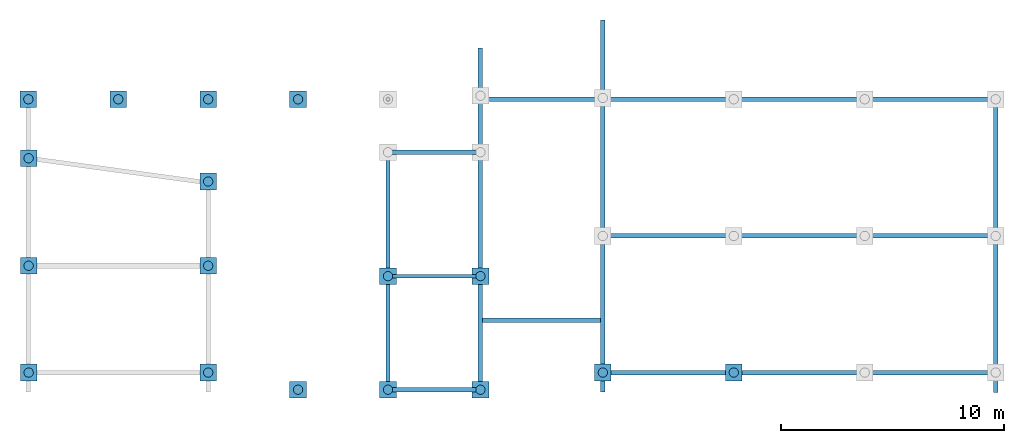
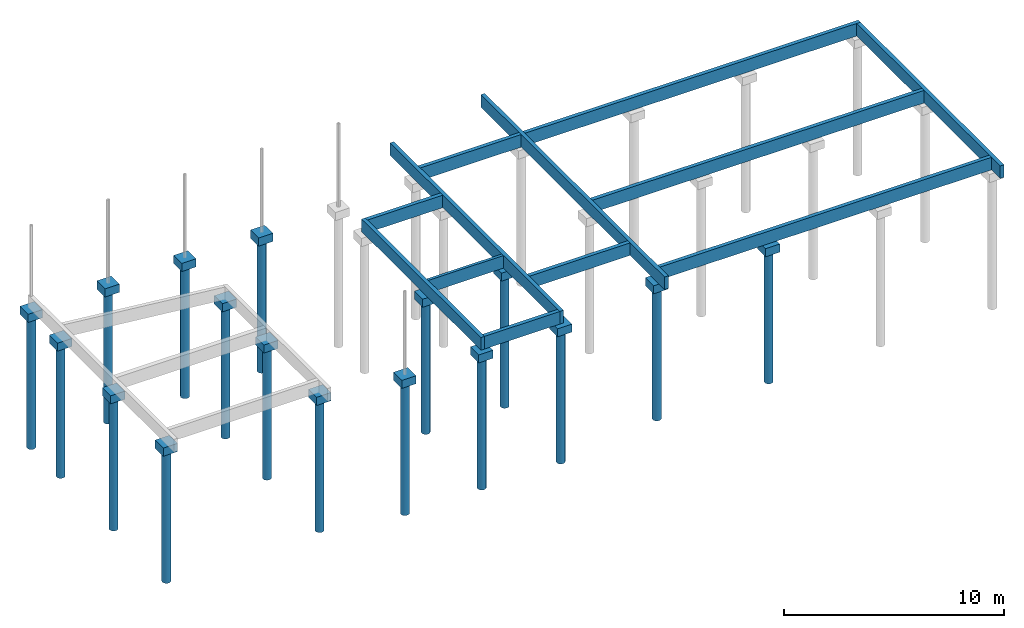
# One storey, part 2 of 3: 34 slabs, 11 beams.
"""IFC2X3 building model written with IfcOpenShell, lengths in metres."""

from ifc_helpers import new_model, entity, si_unit, converted_unit, derived_unit, direction, frame, frame_2d, origin, origin_2d_with_axis, place, context, subcontext, project, spatial, rectangle, circle, extrude, faceted_brep, source, transform, mapped, material, element, save


model = new_model("IFC2X3")

# Units and contexts
model_context = context("Model", 3, precision=1e-05, world=origin(), true_north=direction((6.12303176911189e-17, 1.0)))
body_context = subcontext(model_context, "Body", "Model", "MODEL_VIEW")
ifc_project = project(units=[si_unit("LENGTHUNIT", "METRE"), si_unit("AREAUNIT", "SQUARE_METRE"), si_unit("VOLUMEUNIT", "CUBIC_METRE"), converted_unit("PLANEANGLEUNIT", "DEGREE", entity("IfcRatioMeasure", 0.0174532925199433), si_unit("PLANEANGLEUNIT", "RADIAN"), dimensions=[0, 0, 0, 0, 0, 0, 0]), si_unit("MASSUNIT", "GRAM", prefix="KILO"), si_unit("TIMEUNIT", "SECOND"), si_unit("FREQUENCYUNIT", "HERTZ"), si_unit("THERMODYNAMICTEMPERATUREUNIT", "DEGREE_CELSIUS"), derived_unit("THERMALTRANSMITTANCEUNIT", [(si_unit("MASSUNIT", "GRAM", prefix="KILO"), 1), (si_unit("THERMODYNAMICTEMPERATUREUNIT", "KELVIN"), -1), (si_unit("TIMEUNIT", "SECOND"), -3)]), derived_unit("VOLUMETRICFLOWRATEUNIT", [(si_unit("LENGTHUNIT", "METRE"), 3), (si_unit("TIMEUNIT", "SECOND"), -1)]), si_unit("ELECTRICCURRENTUNIT", "AMPERE"), si_unit("ELECTRICVOLTAGEUNIT", "VOLT"), si_unit("POWERUNIT", "WATT"), si_unit("FORCEUNIT", "NEWTON", prefix="KILO"), si_unit("ILLUMINANCEUNIT", "LUX"), si_unit("LUMINOUSFLUXUNIT", "LUMEN"), si_unit("LUMINOUSINTENSITYUNIT", "CANDELA"), derived_unit("USERDEFINED", [(si_unit("MASSUNIT", "GRAM", prefix="KILO"), -1), (si_unit("LENGTHUNIT", "METRE"), -2), (si_unit("TIMEUNIT", "SECOND"), 3), (si_unit("LUMINOUSFLUXUNIT", "LUMEN"), 1)]), derived_unit("LINEARVELOCITYUNIT", [(si_unit("LENGTHUNIT", "METRE"), 1), (si_unit("TIMEUNIT", "SECOND"), -1)]), si_unit("PRESSUREUNIT", "PASCAL"), derived_unit("USERDEFINED", [(si_unit("LENGTHUNIT", "METRE"), -2), (si_unit("MASSUNIT", "GRAM", prefix="KILO"), 1), (si_unit("TIMEUNIT", "SECOND"), -2)])], contexts=[model_context])

# Site, building, storey
site_placement = place(None, origin())
site = spatial("IfcSite", under=ifc_project, at=site_placement, Name="Default", CompositionType="ELEMENT")
building_placement = place(site_placement, origin())
building = spatial("IfcBuilding", under=site, at=building_placement, CompositionType="ELEMENT")
storey_placement = place(building_placement, frame((0.0, 0.0, -0.77)))
storey = spatial("IfcBuildingStorey", under=building, at=storey_placement, Name="Fondation", CompositionType="ELEMENT", Elevation=-0.77)

# Beams
ifc_material_1 = material(Name="Béton - Béton coulé sur place")
shared_shape = source(origin(), body_context, "Body", "SweptSolid", [
    extrude(rectangle(XDim=5.30000043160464, YDim=0.2, at=frame_2d((0.0, -1.08246744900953e-15), x_axis=(1.0, 0.0))), frame((2.65000021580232, 0.100000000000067, 0.0)), (0.0, 0.0, 1.0), 0.7),
    extrude(rectangle(XDim=17.6500015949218, YDim=0.2, at=frame_2d((1.72500010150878, -0.0200000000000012), x_axis=(1.0, 0.0))), frame((16.0500013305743, 0.0800000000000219, 0.0), z_axis=(0.0, 0.0, 1.0), x_axis=(-1.0, 0.0, 0.0)), (0.0, 0.0, 1.0), 0.7),
])
beam_1_placement = place(storey_placement, frame((-1.77242964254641, 9.42524968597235, 0.0)))
element("IfcBeam", 1, at=beam_1_placement, inside=storey, material=ifc_material_1, Name="Poutre rectangulaire - Béton:Longrine 0.20 x 0.7", ObjectType="Longrine 0.20 x 0.7", context=body_context, shape_type="MappedRepresentation", body=[
    mapped(shared_shape, transform((0.0, 0.0, 0.0), scale=1.0)),
])
beam_2_placement = place(storey_placement, frame((-5.92551543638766, 7.14524988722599, 0.0)))
element("IfcBeam", 2, at=beam_2_placement, inside=storey, material=ifc_material_1, Name="Poutre rectangulaire - Béton:Longrine 0.20 x 0.7", ObjectType="Poutre rectangulaire - Béton:Longrine 0.20 x 0.7", context=body_context, shape_type="SweptSolid", body=[
    extrude(rectangle(XDim=0.7, YDim=0.2, at=frame_2d((0.0, 1.29896093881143e-14), x_axis=(1.0, 0.0))), frame((-0.0126571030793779, 0.0, 0.349999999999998), z_axis=(1.0, 0.0, 0.0), x_axis=(0.0, 0.0, -1.0)), (0.0, 0.0, 1.0), 3.96574289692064),
])
beam_3_placement = place(storey_placement, frame((-6.12551543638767, -3.62475028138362, 0.0), z_axis=(0.0, 0.0, 1.0), x_axis=(0.0, 1.0, 0.0)))
element("IfcBeam", 3, at=beam_3_placement, inside=storey, material=ifc_material_1, Name="Poutre rectangulaire - Béton:Longrine 0.20 x 0.7", ObjectType="Poutre rectangulaire - Béton:Longrine 0.20 x 0.7", context=body_context, shape_type="Brep", body=[
    faceted_brep([(0.0, -0.2, 0.7), (0.0, -0.2, 0.0), (0.200000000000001, -0.200000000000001, 0.0), (5.12999973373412, -0.200000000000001, 0.0), (5.27999973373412, -0.2, 0.0), (10.6700001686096, -0.200000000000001, 0.0), (10.6700001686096, -0.200000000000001, 0.7), (5.27999973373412, -0.2, 0.7), (5.12999973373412, -0.200000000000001, 0.7), (0.200000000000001, -0.200000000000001, 0.7), (0.0, 0.0, 0.0), (10.8699999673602, 0.0, 0.0), (10.8699999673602, -0.187342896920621, 0.0), (10.6700001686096, -0.18734289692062, 0.0), (10.8699999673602, 0.0, 0.7), (0.0, 0.0, 0.7), (10.6699999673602, 0.0, 0.7), (10.6700001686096, -0.18734289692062, 0.7), (10.8699999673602, -0.187342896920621, 0.7)], [[[0, 1, 2, 3, 4, 5, 6, 7, 8, 9]], [[10, 11, 12, 13, 5, 4, 3, 2, 1]], [[14, 11, 10, 15, 16]], [[14, 16, 15, 0, 9, 8, 7, 6, 17, 18]], [[13, 17, 6, 5]], [[11, 14, 18, 12]], [[1, 0, 15, 10]], [[17, 13, 12, 18]]]),
])
beam_4_placement = place(storey_placement, frame((-1.87242964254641, 11.825249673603, 0.0), z_axis=(0.0, 0.0, 1.0), x_axis=(0.0, -1.0, 0.0)))
element("IfcBeam", 4, at=beam_4_placement, inside=storey, material=ifc_material_1, Name="Poutre rectangulaire - Béton:Longrine 0.20 x 0.7", ObjectType="Poutre rectangulaire - Béton:Longrine 0.20 x 0.7", context=body_context, shape_type="SweptSolid", body=[
    extrude(rectangle(XDim=0.7, YDim=0.2, at=origin_2d_with_axis()), frame((-0.012700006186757, 0.0, 0.349999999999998), z_axis=(1.0, 0.0, 0.0), x_axis=(0.0, 0.0, -1.0)), (0.0, 0.0, 1.0), 15.4626999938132),
])
beam_5_placement = place(storey_placement, frame((-1.8724334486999, -3.52475028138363, 0.0), z_axis=(0.0, 0.0, 1.0), x_axis=(-1.0, 0.0, 0.0)))
element("IfcBeam", 5, at=beam_5_placement, inside=storey, material=ifc_material_1, Name="Poutre rectangulaire - Béton:Longrine 0.20 x 0.7", ObjectType="Poutre rectangulaire - Béton:Longrine 0.20 x 0.7", context=body_context, shape_type="SweptSolid", body=[
    extrude(rectangle(XDim=0.7, YDim=0.2, at=frame_2d((0.0, 1.24553145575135e-14), x_axis=(1.0, 0.0))), frame((0.0999961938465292, 0.0, 0.349999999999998), z_axis=(1.0, 0.0, 0.0), x_axis=(0.0, 0.0, -1.0)), (0.0, 0.0, 1.0), 3.95308579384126),
])
beam_6_placement = place(storey_placement, frame((3.62757078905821, -0.404750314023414, 0.0), z_axis=(0.0, 0.0, 1.0), x_axis=(-1.0, 0.0, 0.0)))
element("IfcBeam", 6, at=beam_6_placement, inside=storey, material=ifc_material_1, Name="Poutre rectangulaire - Béton:Longrine 0.20 x 0.7", ObjectType="Poutre rectangulaire - Béton:Longrine 0.20 x 0.7", context=body_context, shape_type="SweptSolid", body=[
    extrude(rectangle(XDim=0.7, YDim=0.2, at=frame_2d((0.0, 1.71945790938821e-14), x_axis=(1.0, 0.0))), frame((0.0999999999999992, 0.0, 0.349999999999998), z_axis=(1.0, 0.0, 0.0), x_axis=(0.0, 0.0, -1.0)), (0.0, 0.0, 1.0), 5.30000043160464),
])
beam_7_placement = place(storey_placement, frame((3.6275707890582, -3.6247503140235, 0.0), z_axis=(0.0, 0.0, 1.0), x_axis=(0.0, 1.0, 0.0)))
element("IfcBeam", 7, at=beam_7_placement, inside=storey, material=ifc_material_1, Name="Poutre rectangulaire - Béton:Longrine 0.20 x 0.7", ObjectType="Poutre rectangulaire - Béton:Longrine 0.20 x 0.7", context=body_context, shape_type="SweptSolid", body=[
    extrude(rectangle(XDim=0.7, YDim=0.2, at=origin_2d_with_axis()), frame((-0.0127000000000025, 0.0, 0.349999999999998), z_axis=(1.0, 0.0, 0.0), x_axis=(0.0, 0.0, -1.0)), (0.0, 0.0, 1.0), 16.7254),
])
beam_8_placement = place(storey_placement, frame((21.277572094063, 9.52524967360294, 0.0), z_axis=(0.0, 0.0, 1.0), x_axis=(0.0, -1.0, 0.0)))
element("IfcBeam", 8, at=beam_8_placement, inside=storey, material=ifc_material_1, Name="Poutre rectangulaire - Béton:Longrine 0.20 x 0.7", ObjectType="Poutre rectangulaire - Béton:Longrine 0.20 x 0.7", context=body_context, shape_type="SweptSolid", body=[
    extrude(rectangle(XDim=0.7, YDim=0.199999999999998, at=origin_2d_with_axis()), frame((0.099999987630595, 0.0, 0.349999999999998), z_axis=(1.0, 0.0, 0.0), x_axis=(0.0, 0.0, -1.0)), (0.0, 0.0, 1.0), 13.0727000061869),
])
beam_9_placement = place(storey_placement, frame((21.277572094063, -2.75475018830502, 0.0), z_axis=(0.0, 0.0, 1.0), x_axis=(-1.0, 0.0, 0.0)))
element("IfcBeam", 9, at=beam_9_placement, inside=storey, material=ifc_material_1, Name="Poutre rectangulaire - Béton:Longrine 0.20 x 0.7", ObjectType="Poutre rectangulaire - Béton:Longrine 0.20 x 0.7", context=body_context, shape_type="SweptSolid", body=[
    extrude(rectangle(XDim=0.7, YDim=0.2, at=frame_2d((0.0, 5.63091240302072e-14), x_axis=(1.0, 0.0))), frame((0.0999999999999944, 0.0, 0.349999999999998), z_axis=(1.0, 0.0, 0.0), x_axis=(0.0, 0.0, -1.0)), (0.0, 0.0, 1.0), 17.4500013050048),
])
beam_10_placement = place(storey_placement, frame((3.62757078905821, 3.3852497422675, 0.0)))
element("IfcBeam", 10, at=beam_10_placement, inside=storey, material=ifc_material_1, Name="Poutre rectangulaire - Béton:Longrine 0.20 x 0.7", ObjectType="Poutre rectangulaire - Béton:Longrine 0.20 x 0.7", context=body_context, shape_type="SweptSolid", body=[
    extrude(rectangle(XDim=0.7, YDim=0.199999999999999, at=frame_2d((0.0, 5.63091240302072e-14), x_axis=(1.0, 0.0))), frame((0.0999999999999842, 0.0, 0.349999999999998), z_axis=(1.0, 0.0, 0.0), x_axis=(0.0, 0.0, -1.0)), (0.0, 0.0, 1.0), 17.4500013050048),
])
beam_11_placement = place(storey_placement, frame((-6.02551543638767, 1.5802494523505, 0.0)))
element("IfcBeam", 11, at=beam_11_placement, inside=storey, material=ifc_material_1, Name="Poutre rectangulaire - Béton:Longrine 0.15 x 0.70", ObjectType="Poutre rectangulaire - Béton:Longrine 0.15 x 0.70", context=body_context, shape_type="SweptSolid", body=[
    extrude(rectangle(XDim=0.7, YDim=0.15, at=origin_2d_with_axis()), frame((0.100000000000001, 0.0, 0.349999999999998), z_axis=(1.0, 0.0, 0.0), x_axis=(0.0, 0.0, -1.0)), (0.0, 0.0, 1.0), 3.95308579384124),
])

# Slabs
slab_1_placement = place(storey_placement, frame((-22.5605154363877, 9.15024996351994, -0.45)))
element("IfcSlab", 12, at=slab_1_placement, inside=storey, material=ifc_material_1, Name="Base rectangulaire:Semelle 0.75 x 0.75 x 0.45", ObjectType="Base rectangulaire:Semelle 0.75 x 0.75 x 0.45", PredefinedType="FLOOR", context=body_context, shape_type="SweptSolid", body=[
    extrude(rectangle(XDim=0.749999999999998, YDim=0.75, at=frame_2d((2.16493489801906e-15, -5.27355936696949e-16), x_axis=(1.0, 0.0))), frame((0.375000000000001, 0.374999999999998, 0.0), z_axis=(0.0, 0.0, 1.0), x_axis=(-1.0, 0.0, 0.0)), (0.0, 0.0, 1.0), 0.45),
    extrude(rectangle(XDim=0.749999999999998, YDim=0.75, at=frame_2d((2.16493489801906e-15, -5.27355936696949e-16), x_axis=(1.0, 0.0))), frame((0.375000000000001, 0.374999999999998, 0.0), z_axis=(0.0, 0.0, 1.0), x_axis=(-1.0, 0.0, 0.0)), (0.0, 0.0, 1.0), 0.45),
])
ifc_material_2 = material(Name="Maçonnerie - Béton coulé sur place")
slab_2_placement = place(storey_placement, frame((-22.3971029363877, 9.31519359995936, -7.73)))
element("IfcSlab", 13, at=slab_2_placement, inside=storey, material=ifc_material_2, Name="Pieu-Conduite en acier:Pieu 420mm", ObjectType="Pieu-Conduite en acier:Pieu 420mm", PredefinedType="FLOOR", context=body_context, shape_type="SweptSolid", body=[
    extrude(circle(Radius=0.21, at=origin_2d_with_axis()), frame((0.211587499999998, 0.210056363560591, 0.0)), (0.0, 0.0, 1.0), 7.28),
])
slab_3_placement = place(storey_placement, frame((-18.5205154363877, 9.15024996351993, -0.45)))
element("IfcSlab", 14, at=slab_3_placement, inside=storey, material=ifc_material_1, Name="Base rectangulaire:Semelle 0.75 x 0.75 x 0.45", ObjectType="Base rectangulaire:Semelle 0.75 x 0.75 x 0.45", PredefinedType="FLOOR", context=body_context, shape_type="SweptSolid", body=[
    extrude(rectangle(XDim=0.750000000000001, YDim=0.75, at=frame_2d((-1.08246744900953e-15, 5.27355936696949e-16), x_axis=(1.0, 0.0))), frame((0.375000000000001, 0.374999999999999, 0.0), z_axis=(0.0, 0.0, 1.0), x_axis=(-1.0, 0.0, 0.0)), (0.0, 0.0, 1.0), 0.45),
    extrude(rectangle(XDim=0.750000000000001, YDim=0.75, at=frame_2d((-1.08246744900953e-15, 5.27355936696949e-16), x_axis=(1.0, 0.0))), frame((0.375000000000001, 0.374999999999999, 0.0), z_axis=(0.0, 0.0, 1.0), x_axis=(-1.0, 0.0, 0.0)), (0.0, 0.0, 1.0), 0.45),
])
slab_4_placement = place(storey_placement, frame((-18.3571029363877, 9.31519359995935, -7.73)))
element("IfcSlab", 15, at=slab_4_placement, inside=storey, material=ifc_material_2, Name="Pieu-Conduite en acier:Pieu 420mm", ObjectType="Pieu-Conduite en acier:Pieu 420mm", PredefinedType="FLOOR", context=body_context, shape_type="SweptSolid", body=[
    extrude(circle(Radius=0.21, at=origin_2d_with_axis()), frame((0.211587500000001, 0.210056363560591, 0.0)), (0.0, 0.0, 1.0), 7.28),
])
slab_5_placement = place(storey_placement, frame((-14.4805154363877, 9.15024996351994, -0.45)))
element("IfcSlab", 16, at=slab_5_placement, inside=storey, material=ifc_material_1, Name="Base rectangulaire:Semelle 0.75 x 0.75 x 0.45", ObjectType="Base rectangulaire:Semelle 0.75 x 0.75 x 0.45", PredefinedType="FLOOR", context=body_context, shape_type="SweptSolid", body=[
    extrude(rectangle(XDim=0.750000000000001, YDim=0.75, at=frame_2d((-1.08246744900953e-15, -5.27355936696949e-16), x_axis=(1.0, 0.0))), frame((0.375000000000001, 0.374999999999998, 0.0), z_axis=(0.0, 0.0, 1.0), x_axis=(-1.0, 0.0, 0.0)), (0.0, 0.0, 1.0), 0.45),
    extrude(rectangle(XDim=0.750000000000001, YDim=0.75, at=frame_2d((-1.08246744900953e-15, -5.27355936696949e-16), x_axis=(1.0, 0.0))), frame((0.375000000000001, 0.374999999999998, 0.0), z_axis=(0.0, 0.0, 1.0), x_axis=(-1.0, 0.0, 0.0)), (0.0, 0.0, 1.0), 0.45),
])
slab_6_placement = place(storey_placement, frame((-14.3171029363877, 9.31519359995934, -7.73)))
element("IfcSlab", 17, at=slab_6_placement, inside=storey, material=ifc_material_2, Name="Pieu-Conduite en acier:Pieu 420mm", ObjectType="Pieu-Conduite en acier:Pieu 420mm", PredefinedType="FLOOR", context=body_context, shape_type="SweptSolid", body=[
    extrude(circle(Radius=0.21, at=origin_2d_with_axis()), frame((0.211587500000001, 0.210056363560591, 0.0)), (0.0, 0.0, 1.0), 7.28),
])
slab_7_placement = place(storey_placement, frame((-10.4405154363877, 9.15024996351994, -0.45)))
element("IfcSlab", 18, at=slab_7_placement, inside=storey, material=ifc_material_1, Name="Base rectangulaire:Semelle 0.75 x 0.75 x 0.45", ObjectType="Base rectangulaire:Semelle 0.75 x 0.75 x 0.45", PredefinedType="FLOOR", context=body_context, shape_type="SweptSolid", body=[
    extrude(rectangle(XDim=0.75, YDim=0.75, at=frame_2d((-5.27355936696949e-16, -5.27355936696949e-16), x_axis=(1.0, 0.0))), frame((0.375000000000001, 0.374999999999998, 0.0), z_axis=(0.0, 0.0, 1.0), x_axis=(-1.0, 0.0, 0.0)), (0.0, 0.0, 1.0), 0.45),
    extrude(rectangle(XDim=0.75, YDim=0.75, at=frame_2d((-5.27355936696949e-16, -5.27355936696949e-16), x_axis=(1.0, 0.0))), frame((0.375000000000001, 0.374999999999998, 0.0), z_axis=(0.0, 0.0, 1.0), x_axis=(-1.0, 0.0, 0.0)), (0.0, 0.0, 1.0), 0.45),
])
slab_8_placement = place(storey_placement, frame((-10.2771029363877, 9.31519359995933, -7.73)))
element("IfcSlab", 19, at=slab_8_placement, inside=storey, material=ifc_material_2, Name="Pieu-Conduite en acier:Pieu 420mm", ObjectType="Pieu-Conduite en acier:Pieu 420mm", PredefinedType="FLOOR", context=body_context, shape_type="SweptSolid", body=[
    extrude(circle(Radius=0.21, at=origin_2d_with_axis()), frame((0.211587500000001, 0.210056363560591, 0.0)), (0.0, 0.0, 1.0), 7.28),
])
slab_9_placement = place(storey_placement, frame((-22.5474270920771, 6.50122733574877, -0.45)))
element("IfcSlab", 20, at=slab_9_placement, inside=storey, material=ifc_material_1, Name="Base rectangulaire:Semelle 0.75 x 0.75 x 0.45", ObjectType="Base rectangulaire:Semelle 0.75 x 0.75 x 0.45", PredefinedType="FLOOR", context=body_context, shape_type="SweptSolid", body=[
    extrude(rectangle(XDim=0.749999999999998, YDim=0.75, at=frame_2d((2.16493489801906e-15, 5.27355936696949e-16), x_axis=(1.0, 0.0))), frame((0.375000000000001, 0.375, 0.0), z_axis=(0.0, 0.0, 1.0), x_axis=(-1.0, 0.0, 0.0)), (0.0, 0.0, 1.0), 0.45),
    extrude(rectangle(XDim=0.749999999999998, YDim=0.75, at=frame_2d((2.16493489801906e-15, 5.27355936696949e-16), x_axis=(1.0, 0.0))), frame((0.375000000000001, 0.375, 0.0), z_axis=(0.0, 0.0, 1.0), x_axis=(-1.0, 0.0, 0.0)), (0.0, 0.0, 1.0), 0.45),
])
slab_10_placement = place(storey_placement, frame((-22.3840145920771, 6.66617097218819, -7.73)))
element("IfcSlab", 21, at=slab_10_placement, inside=storey, material=ifc_material_2, Name="Pieu-Conduite en acier:Pieu 420mm", ObjectType="Pieu-Conduite en acier:Pieu 420mm", PredefinedType="FLOOR", context=body_context, shape_type="SweptSolid", body=[
    extrude(circle(Radius=0.21, at=origin_2d_with_axis()), frame((0.211587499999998, 0.210056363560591, 0.0)), (0.0, 0.0, 1.0), 7.28),
])
slab_11_placement = place(storey_placement, frame((-22.5474270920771, 1.67042227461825, -0.45)))
element("IfcSlab", 22, at=slab_11_placement, inside=storey, material=ifc_material_1, Name="Base rectangulaire:Semelle 0.75 x 0.75 x 0.45", ObjectType="Base rectangulaire:Semelle 0.75 x 0.75 x 0.45", PredefinedType="FLOOR", context=body_context, shape_type="SweptSolid", body=[
    extrude(rectangle(XDim=0.749999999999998, YDim=0.75, at=frame_2d((2.16493489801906e-15, 1.38777878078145e-16), x_axis=(1.0, 0.0))), frame((0.375000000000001, 0.375, 0.0), z_axis=(0.0, 0.0, 1.0), x_axis=(-1.0, 0.0, 0.0)), (0.0, 0.0, 1.0), 0.45),
    extrude(rectangle(XDim=0.749999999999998, YDim=0.75, at=frame_2d((2.16493489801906e-15, 1.38777878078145e-16), x_axis=(1.0, 0.0))), frame((0.375000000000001, 0.375, 0.0), z_axis=(0.0, 0.0, 1.0), x_axis=(-1.0, 0.0, 0.0)), (0.0, 0.0, 1.0), 0.45),
])
slab_12_placement = place(storey_placement, frame((-22.3840145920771, 1.83536591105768, -7.73)))
element("IfcSlab", 23, at=slab_12_placement, inside=storey, material=ifc_material_2, Name="Pieu-Conduite en acier:Pieu 420mm", ObjectType="Pieu-Conduite en acier:Pieu 420mm", PredefinedType="FLOOR", context=body_context, shape_type="SweptSolid", body=[
    extrude(circle(Radius=0.21, at=frame_2d((0.0, -2.70716782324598e-16), x_axis=(1.0, 0.0))), frame((0.211587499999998, 0.210056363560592, 0.0)), (0.0, 0.0, 1.0), 7.28),
])
slab_13_placement = place(storey_placement, frame((-22.5474270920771, -3.12975031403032, -0.45)))
element("IfcSlab", 24, at=slab_13_placement, inside=storey, material=ifc_material_1, Name="Base rectangulaire:Semelle 0.75 x 0.75 x 0.45", ObjectType="Base rectangulaire:Semelle 0.75 x 0.75 x 0.45", PredefinedType="FLOOR", context=body_context, shape_type="SweptSolid", body=[
    extrude(rectangle(XDim=0.749999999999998, YDim=0.75, at=frame_2d((2.16493489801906e-15, 0.0), x_axis=(1.0, 0.0))), frame((0.375000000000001, 0.375000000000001, 0.0), z_axis=(0.0, 0.0, 1.0), x_axis=(-1.0, 0.0, 0.0)), (0.0, 0.0, 1.0), 0.45),
    extrude(rectangle(XDim=0.749999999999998, YDim=0.75, at=frame_2d((2.16493489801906e-15, 0.0), x_axis=(1.0, 0.0))), frame((0.375000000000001, 0.375000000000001, 0.0), z_axis=(0.0, 0.0, 1.0), x_axis=(-1.0, 0.0, 0.0)), (0.0, 0.0, 1.0), 0.45),
])
slab_14_placement = place(storey_placement, frame((-22.3840145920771, -2.96480667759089, -7.73)))
element("IfcSlab", 25, at=slab_14_placement, inside=storey, material=ifc_material_2, Name="Pieu-Conduite en acier:Pieu 420mm", ObjectType="Pieu-Conduite en acier:Pieu 420mm", PredefinedType="FLOOR", context=body_context, shape_type="SweptSolid", body=[
    extrude(circle(Radius=0.21, at=frame_2d((0.0, -5.41433564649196e-16), x_axis=(1.0, 0.0))), frame((0.211587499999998, 0.210056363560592, 0.0)), (0.0, 0.0, 1.0), 7.28),
])
slab_15_placement = place(storey_placement, frame((-14.4805154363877, -3.12975031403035, -0.45)))
element("IfcSlab", 26, at=slab_15_placement, inside=storey, material=ifc_material_1, Name="Base rectangulaire:Semelle 0.75 x 0.75 x 0.45", ObjectType="Base rectangulaire:Semelle 0.75 x 0.75 x 0.45", PredefinedType="FLOOR", context=body_context, shape_type="SweptSolid", body=[
    extrude(rectangle(XDim=0.750000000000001, YDim=0.75, at=frame_2d((-1.08246744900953e-15, 0.0), x_axis=(1.0, 0.0))), frame((0.375000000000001, 0.375000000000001, 0.0), z_axis=(0.0, 0.0, 1.0), x_axis=(-1.0, 0.0, 0.0)), (0.0, 0.0, 1.0), 0.45),
    extrude(rectangle(XDim=0.750000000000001, YDim=0.75, at=frame_2d((-1.08246744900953e-15, 0.0), x_axis=(1.0, 0.0))), frame((0.375000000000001, 0.375000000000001, 0.0), z_axis=(0.0, 0.0, 1.0), x_axis=(-1.0, 0.0, 0.0)), (0.0, 0.0, 1.0), 0.45),
])
slab_16_placement = place(storey_placement, frame((-14.3171029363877, -2.96480667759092, -7.73)))
element("IfcSlab", 27, at=slab_16_placement, inside=storey, material=ifc_material_2, Name="Pieu-Conduite en acier:Pieu 420mm", ObjectType="Pieu-Conduite en acier:Pieu 420mm", PredefinedType="FLOOR", context=body_context, shape_type="SweptSolid", body=[
    extrude(circle(Radius=0.21, at=frame_2d((0.0, -5.41433564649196e-16), x_axis=(1.0, 0.0))), frame((0.211587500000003, 0.210056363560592, 0.0)), (0.0, 0.0, 1.0), 7.28),
])
slab_17_placement = place(storey_placement, frame((-14.4805154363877, 1.67042227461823, -0.45)))
element("IfcSlab", 28, at=slab_17_placement, inside=storey, material=ifc_material_1, Name="Base rectangulaire:Semelle 0.75 x 0.75 x 0.45", ObjectType="Base rectangulaire:Semelle 0.75 x 0.75 x 0.45", PredefinedType="FLOOR", context=body_context, shape_type="SweptSolid", body=[
    extrude(rectangle(XDim=0.750000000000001, YDim=0.75, at=frame_2d((-1.08246744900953e-15, 1.38777878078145e-16), x_axis=(1.0, 0.0))), frame((0.375000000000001, 0.375, 0.0), z_axis=(0.0, 0.0, 1.0), x_axis=(-1.0, 0.0, 0.0)), (0.0, 0.0, 1.0), 0.45),
    extrude(rectangle(XDim=0.750000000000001, YDim=0.75, at=frame_2d((-1.08246744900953e-15, 1.38777878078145e-16), x_axis=(1.0, 0.0))), frame((0.375000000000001, 0.375, 0.0), z_axis=(0.0, 0.0, 1.0), x_axis=(-1.0, 0.0, 0.0)), (0.0, 0.0, 1.0), 0.45),
])
slab_18_placement = place(storey_placement, frame((-14.3171029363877, 1.83536591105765, -7.73)))
element("IfcSlab", 29, at=slab_18_placement, inside=storey, material=ifc_material_2, Name="Pieu-Conduite en acier:Pieu 420mm", ObjectType="Pieu-Conduite en acier:Pieu 420mm", PredefinedType="FLOOR", context=body_context, shape_type="SweptSolid", body=[
    extrude(circle(Radius=0.21, at=frame_2d((0.0, -2.70716782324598e-16), x_axis=(1.0, 0.0))), frame((0.211587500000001, 0.210056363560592, 0.0)), (0.0, 0.0, 1.0), 7.28),
])
slab_19_placement = place(storey_placement, frame((-14.4805154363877, 5.45445083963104, -0.45)))
element("IfcSlab", 30, at=slab_19_placement, inside=storey, material=ifc_material_1, Name="Base rectangulaire:Semelle 0.75 x 0.75 x 0.45", ObjectType="Base rectangulaire:Semelle 0.75 x 0.75 x 0.45", PredefinedType="FLOOR", context=body_context, shape_type="SweptSolid", body=[
    extrude(rectangle(XDim=0.750000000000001, YDim=0.75, at=frame_2d((1.08246744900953e-15, 5.27355936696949e-16), x_axis=(1.0, 0.0))), frame((0.375000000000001, 0.374999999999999, 0.0), z_axis=(0.0, 0.0, 1.0), x_axis=(-1.0, 0.0, 0.0)), (0.0, 0.0, 1.0), 0.45),
    extrude(rectangle(XDim=0.750000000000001, YDim=0.75, at=frame_2d((1.08246744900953e-15, 5.27355936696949e-16), x_axis=(1.0, 0.0))), frame((0.375000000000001, 0.374999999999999, 0.0), z_axis=(0.0, 0.0, 1.0), x_axis=(-1.0, 0.0, 0.0)), (0.0, 0.0, 1.0), 0.45),
])
slab_20_placement = place(storey_placement, frame((-14.3171029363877, 5.61939447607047, -7.73)))
element("IfcSlab", 31, at=slab_20_placement, inside=storey, material=ifc_material_2, Name="Pieu-Conduite en acier:Pieu 420mm", ObjectType="Pieu-Conduite en acier:Pieu 420mm", PredefinedType="FLOOR", context=body_context, shape_type="SweptSolid", body=[
    extrude(circle(Radius=0.21, at=origin_2d_with_axis()), frame((0.211587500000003, 0.210056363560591, 0.0)), (0.0, 0.0, 1.0), 7.28),
])
slab_21_placement = place(storey_placement, frame((-10.4405154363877, -3.89975028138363, -0.45)))
element("IfcSlab", 32, at=slab_21_placement, inside=storey, material=ifc_material_1, Name="Base rectangulaire:Semelle 0.75 x 0.75 x 0.45", ObjectType="Base rectangulaire:Semelle 0.75 x 0.75 x 0.45", PredefinedType="FLOOR", context=body_context, shape_type="SweptSolid", body=[
    extrude(rectangle(XDim=0.75, YDim=0.75, at=frame_2d((-5.27355936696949e-16, 5.27355936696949e-16), x_axis=(1.0, 0.0))), frame((0.374999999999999, 0.375000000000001, 0.0), z_axis=(0.0, 0.0, 1.0), x_axis=(-1.0, 0.0, 0.0)), (0.0, 0.0, 1.0), 0.45),
    extrude(rectangle(XDim=0.75, YDim=0.75, at=frame_2d((-5.27355936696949e-16, 5.27355936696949e-16), x_axis=(1.0, 0.0))), frame((0.374999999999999, 0.375000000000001, 0.0), z_axis=(0.0, 0.0, 1.0), x_axis=(-1.0, 0.0, 0.0)), (0.0, 0.0, 1.0), 0.45),
])
slab_22_placement = place(storey_placement, frame((-10.2771029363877, -3.7348066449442, -7.73)))
element("IfcSlab", 33, at=slab_22_placement, inside=storey, material=ifc_material_2, Name="Pieu-Conduite en acier:Pieu 420mm", ObjectType="Pieu-Conduite en acier:Pieu 420mm", PredefinedType="FLOOR", context=body_context, shape_type="SweptSolid", body=[
    extrude(circle(Radius=0.21, at=frame_2d((0.0, -5.41433564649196e-16), x_axis=(1.0, 0.0))), frame((0.211587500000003, 0.210056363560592, 0.0)), (0.0, 0.0, 1.0), 7.28),
])
slab_23_placement = place(storey_placement, frame((-6.40051543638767, -3.89975028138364, -0.45)))
element("IfcSlab", 34, at=slab_23_placement, inside=storey, material=ifc_material_1, Name="Base rectangulaire:Semelle 0.75 x 0.75 x 0.45", ObjectType="Base rectangulaire:Semelle 0.75 x 0.75 x 0.45", PredefinedType="FLOOR", context=body_context, shape_type="SweptSolid", body=[
    extrude(rectangle(XDim=0.75, YDim=0.75, at=frame_2d((5.27355936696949e-16, 0.0), x_axis=(1.0, 0.0))), frame((0.374999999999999, 0.375000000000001, 0.0), z_axis=(0.0, 0.0, 1.0), x_axis=(-1.0, 0.0, 0.0)), (0.0, 0.0, 1.0), 0.45),
    extrude(rectangle(XDim=0.75, YDim=0.75, at=frame_2d((5.27355936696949e-16, 0.0), x_axis=(1.0, 0.0))), frame((0.374999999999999, 0.375000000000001, 0.0), z_axis=(0.0, 0.0, 1.0), x_axis=(-1.0, 0.0, 0.0)), (0.0, 0.0, 1.0), 0.45),
])
slab_24_placement = place(storey_placement, frame((-6.23710293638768, -3.73480664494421, -7.73)))
element("IfcSlab", 35, at=slab_24_placement, inside=storey, material=ifc_material_2, Name="Pieu-Conduite en acier:Pieu 420mm", ObjectType="Pieu-Conduite en acier:Pieu 420mm", PredefinedType="FLOOR", context=body_context, shape_type="SweptSolid", body=[
    extrude(circle(Radius=0.21, at=frame_2d((0.0, -5.41433564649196e-16), x_axis=(1.0, 0.0))), frame((0.2115875, 0.210056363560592, 0.0)), (0.0, 0.0, 1.0), 7.28),
])
slab_25_placement = place(storey_placement, frame((-2.24743030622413, -3.89975028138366, -0.45)))
element("IfcSlab", 36, at=slab_25_placement, inside=storey, material=ifc_material_1, Name="Base rectangulaire:Semelle 0.75 x 0.75 x 0.45", ObjectType="Base rectangulaire:Semelle 0.75 x 0.75 x 0.45", PredefinedType="FLOOR", context=body_context, shape_type="SweptSolid", body=[
    extrude(rectangle(XDim=0.75, YDim=0.75, at=frame_2d((-1.38777878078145e-16, 0.0), x_axis=(1.0, 0.0))), frame((0.375, 0.375000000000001, 0.0), z_axis=(0.0, 0.0, 1.0), x_axis=(-1.0, 0.0, 0.0)), (0.0, 0.0, 1.0), 0.45),
    extrude(rectangle(XDim=0.75, YDim=0.75, at=frame_2d((-1.38777878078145e-16, 0.0), x_axis=(1.0, 0.0))), frame((0.375, 0.375000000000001, 0.0), z_axis=(0.0, 0.0, 1.0), x_axis=(-1.0, 0.0, 0.0)), (0.0, 0.0, 1.0), 0.45),
])
slab_26_placement = place(storey_placement, frame((-2.08401780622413, -3.73480664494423, -7.73)))
element("IfcSlab", 37, at=slab_26_placement, inside=storey, material=ifc_material_2, Name="Pieu-Conduite en acier:Pieu 420mm", ObjectType="Pieu-Conduite en acier:Pieu 420mm", PredefinedType="FLOOR", context=body_context, shape_type="SweptSolid", body=[
    extrude(circle(Radius=0.21, at=frame_2d((0.0, -5.41433564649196e-16), x_axis=(1.0, 0.0))), frame((0.2115875, 0.210056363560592, 0.0)), (0.0, 0.0, 1.0), 7.28),
])
slab_27_placement = place(storey_placement, frame((-2.24743030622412, 1.2052494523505, -0.45)))
element("IfcSlab", 38, at=slab_27_placement, inside=storey, material=ifc_material_1, Name="Base rectangulaire:Semelle 0.75 x 0.75 x 0.45", ObjectType="Base rectangulaire:Semelle 0.75 x 0.75 x 0.45", PredefinedType="FLOOR", context=body_context, shape_type="SweptSolid", body=[
    extrude(rectangle(XDim=0.75, YDim=0.75, at=frame_2d((-1.38777878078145e-16, 1.38777878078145e-16), x_axis=(1.0, 0.0))), frame((0.375, 0.375, 0.0), z_axis=(0.0, 0.0, 1.0), x_axis=(-1.0, 0.0, 0.0)), (0.0, 0.0, 1.0), 0.45),
    extrude(rectangle(XDim=0.75, YDim=0.75, at=frame_2d((-1.38777878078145e-16, 1.38777878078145e-16), x_axis=(1.0, 0.0))), frame((0.375, 0.375, 0.0), z_axis=(0.0, 0.0, 1.0), x_axis=(-1.0, 0.0, 0.0)), (0.0, 0.0, 1.0), 0.45),
])
slab_28_placement = place(storey_placement, frame((-2.08401780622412, 1.37019308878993, -7.73)))
element("IfcSlab", 39, at=slab_28_placement, inside=storey, material=ifc_material_2, Name="Pieu-Conduite en acier:Pieu 420mm", ObjectType="Pieu-Conduite en acier:Pieu 420mm", PredefinedType="FLOOR", context=body_context, shape_type="SweptSolid", body=[
    extrude(circle(Radius=0.21, at=frame_2d((0.0, -2.70716782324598e-16), x_axis=(1.0, 0.0))), frame((0.2115875, 0.210056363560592, 0.0)), (0.0, 0.0, 1.0), 7.28),
])
slab_29_placement = place(storey_placement, frame((-6.40051543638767, 1.20524945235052, -0.45)))
element("IfcSlab", 40, at=slab_29_placement, inside=storey, material=ifc_material_1, Name="Base rectangulaire:Semelle 0.75 x 0.75 x 0.45", ObjectType="Base rectangulaire:Semelle 0.75 x 0.75 x 0.45", PredefinedType="FLOOR", context=body_context, shape_type="SweptSolid", body=[
    extrude(rectangle(XDim=0.75, YDim=0.75, at=frame_2d((5.27355936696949e-16, 1.38777878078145e-16), x_axis=(1.0, 0.0))), frame((0.374999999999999, 0.375, 0.0), z_axis=(0.0, 0.0, 1.0), x_axis=(-1.0, 0.0, 0.0)), (0.0, 0.0, 1.0), 0.45),
    extrude(rectangle(XDim=0.75, YDim=0.75, at=frame_2d((5.27355936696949e-16, 1.38777878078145e-16), x_axis=(1.0, 0.0))), frame((0.374999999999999, 0.375, 0.0), z_axis=(0.0, 0.0, 1.0), x_axis=(-1.0, 0.0, 0.0)), (0.0, 0.0, 1.0), 0.45),
])
slab_30_placement = place(storey_placement, frame((-6.23710293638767, 1.37019308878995, -7.73)))
element("IfcSlab", 41, at=slab_30_placement, inside=storey, material=ifc_material_2, Name="Pieu-Conduite en acier:Pieu 420mm", ObjectType="Pieu-Conduite en acier:Pieu 420mm", PredefinedType="FLOOR", context=body_context, shape_type="SweptSolid", body=[
    extrude(circle(Radius=0.21, at=frame_2d((0.0, -5.41433564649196e-16), x_axis=(1.0, 0.0))), frame((0.2115875, 0.210056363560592, 0.0)), (0.0, 0.0, 1.0), 7.28),
])
slab_31_placement = place(storey_placement, frame((3.25257144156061, -3.12975018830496, -0.45)))
element("IfcSlab", 42, at=slab_31_placement, inside=storey, material=ifc_material_1, Name="Base rectangulaire:Semelle 0.75 x 0.75 x 0.45", ObjectType="Base rectangulaire:Semelle 0.75 x 0.75 x 0.45", PredefinedType="FLOOR", context=body_context, shape_type="SweptSolid", body=[
    extrude(rectangle(XDim=0.75, YDim=0.75, at=frame_2d((-2.4980018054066e-16, 0.0), x_axis=(1.0, 0.0))), frame((0.375, 0.375000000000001, 0.0), z_axis=(0.0, 0.0, 1.0), x_axis=(-1.0, 0.0, 0.0)), (0.0, 0.0, 1.0), 0.45),
    extrude(rectangle(XDim=0.75, YDim=0.75, at=frame_2d((-2.4980018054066e-16, 0.0), x_axis=(1.0, 0.0))), frame((0.375, 0.375000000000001, 0.0), z_axis=(0.0, 0.0, 1.0), x_axis=(-1.0, 0.0, 0.0)), (0.0, 0.0, 1.0), 0.45),
])
slab_32_placement = place(storey_placement, frame((3.4159839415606, -2.96480655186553, -7.73)))
element("IfcSlab", 43, at=slab_32_placement, inside=storey, material=ifc_material_2, Name="Pieu-Conduite en acier:Pieu 420mm", ObjectType="Pieu-Conduite en acier:Pieu 420mm", PredefinedType="FLOOR", context=body_context, shape_type="SweptSolid", body=[
    extrude(circle(Radius=0.21, at=frame_2d((0.0, -5.41433564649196e-16), x_axis=(1.0, 0.0))), frame((0.2115875, 0.210056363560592, 0.0)), (0.0, 0.0, 1.0), 7.28),
])
slab_33_placement = place(storey_placement, frame((9.1359042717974, -3.12975018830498, -0.45)))
element("IfcSlab", 44, at=slab_33_placement, inside=storey, material=ifc_material_1, Name="Base rectangulaire:Semelle 0.75 x 0.75 x 0.45", ObjectType="Base rectangulaire:Semelle 0.75 x 0.75 x 0.45", PredefinedType="FLOOR", context=body_context, shape_type="SweptSolid", body=[
    extrude(rectangle(XDim=0.75, YDim=0.75, at=frame_2d((5.27355936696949e-16, 0.0), x_axis=(1.0, 0.0))), frame((0.374999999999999, 0.375000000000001, 0.0), z_axis=(0.0, 0.0, 1.0), x_axis=(-1.0, 0.0, 0.0)), (0.0, 0.0, 1.0), 0.45),
    extrude(rectangle(XDim=0.75, YDim=0.75, at=frame_2d((5.27355936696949e-16, 0.0), x_axis=(1.0, 0.0))), frame((0.374999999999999, 0.375000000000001, 0.0), z_axis=(0.0, 0.0, 1.0), x_axis=(-1.0, 0.0, 0.0)), (0.0, 0.0, 1.0), 0.45),
])
slab_34_placement = place(storey_placement, frame((9.29931677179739, -2.96480655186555, -7.73)))
element("IfcSlab", 45, at=slab_34_placement, inside=storey, material=ifc_material_2, Name="Pieu-Conduite en acier:Pieu 420mm", ObjectType="Pieu-Conduite en acier:Pieu 420mm", PredefinedType="FLOOR", context=body_context, shape_type="SweptSolid", body=[
    extrude(circle(Radius=0.21, at=frame_2d((0.0, -5.41433564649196e-16), x_axis=(1.0, 0.0))), frame((0.2115875, 0.210056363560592, 0.0)), (0.0, 0.0, 1.0), 7.28),
])

save(model, "model.ifc")
